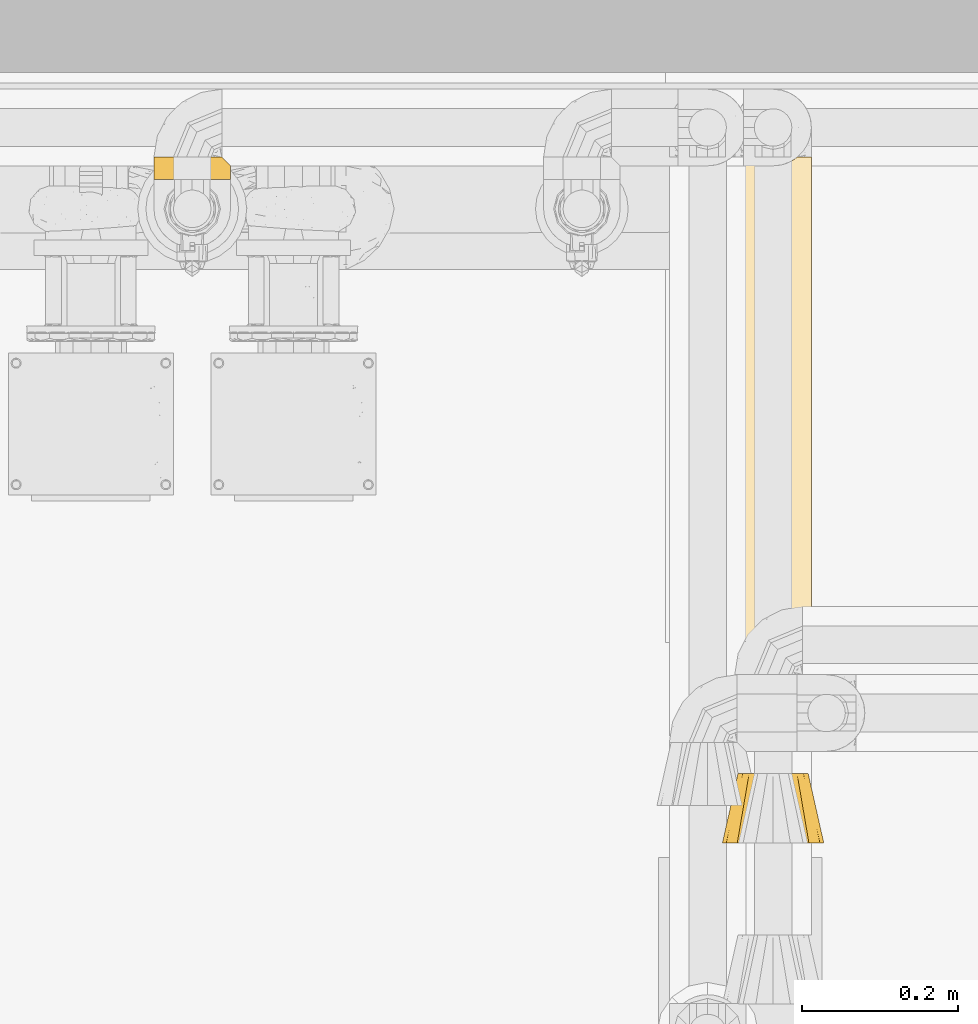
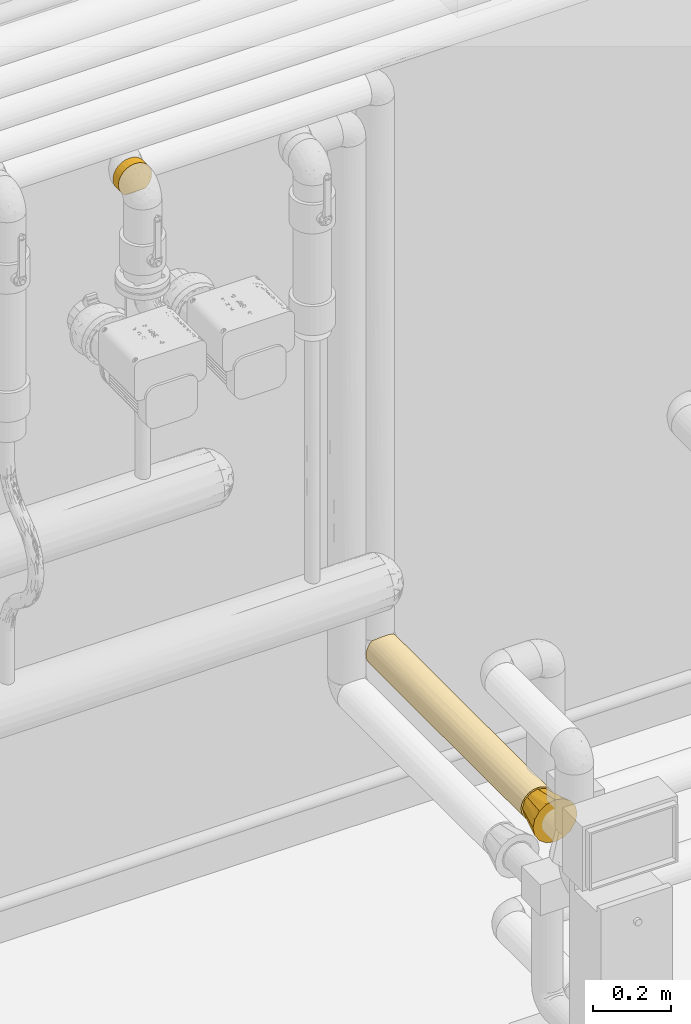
# One storey, part 25 of 94: 3 coverings.
"""IFC2X3 building model written with IfcOpenShell, lengths in millimetres."""

from ifc_helpers import new_model, entity, si_unit, converted_unit, derived_unit, direction, frame, origin, place, context, subcontext, project, spatial, faceted_brep, material, element, save


model = new_model("IFC2X3")

# Units and contexts
model_context = context("Model", 3, precision=0.01, world=origin(), true_north=direction((6.123031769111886e-17, 1.0)))
body_context = subcontext(model_context, "Body", "Model", "MODEL_VIEW")
ifc_project = project(units=[si_unit("LENGTHUNIT", "METRE", prefix="MILLI"), si_unit("AREAUNIT", "SQUARE_METRE"), si_unit("VOLUMEUNIT", "CUBIC_METRE"), converted_unit("PLANEANGLEUNIT", "DEGREE", entity("IfcRatioMeasure", 0.017453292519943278), si_unit("PLANEANGLEUNIT", "RADIAN"), dimensions=[0, 0, 0, 0, 0, 0, 0]), si_unit("MASSUNIT", "GRAM", prefix="KILO"), derived_unit("MASSDENSITYUNIT", [(si_unit("MASSUNIT", "GRAM", prefix="KILO"), 1), (si_unit("LENGTHUNIT", "METRE"), -3)]), derived_unit("IONCONCENTRATIONUNIT", [(si_unit("MASSUNIT", "GRAM", prefix="KILO"), 1), (si_unit("LENGTHUNIT", "METRE"), -3)]), derived_unit("MOMENTOFINERTIAUNIT", [(si_unit("LENGTHUNIT", "METRE"), 4)]), si_unit("TIMEUNIT", "SECOND"), si_unit("FREQUENCYUNIT", "HERTZ"), si_unit("THERMODYNAMICTEMPERATUREUNIT", "DEGREE_CELSIUS"), derived_unit("THERMALTRANSMITTANCEUNIT", [(si_unit("MASSUNIT", "GRAM", prefix="KILO"), 1), (si_unit("THERMODYNAMICTEMPERATUREUNIT", "KELVIN"), -1), (si_unit("TIMEUNIT", "SECOND"), -3)]), derived_unit("THERMALCONDUCTANCEUNIT", [(si_unit("MASSUNIT", "GRAM", prefix="KILO"), 1), (si_unit("THERMODYNAMICTEMPERATUREUNIT", "KELVIN"), -1), (si_unit("TIMEUNIT", "SECOND"), -3), (si_unit("LENGTHUNIT", "METRE"), 1)]), derived_unit("VOLUMETRICFLOWRATEUNIT", [(si_unit("LENGTHUNIT", "METRE"), 3), (si_unit("TIMEUNIT", "SECOND"), -1)]), derived_unit("MASSFLOWRATEUNIT", [(si_unit("MASSUNIT", "GRAM", prefix="KILO"), 1), (si_unit("TIMEUNIT", "SECOND"), -1)]), derived_unit("ROTATIONALFREQUENCYUNIT", [(si_unit("TIMEUNIT", "SECOND"), -1)]), si_unit("ELECTRICCURRENTUNIT", "AMPERE"), si_unit("ELECTRICVOLTAGEUNIT", "VOLT"), si_unit("POWERUNIT", "WATT"), si_unit("FORCEUNIT", "NEWTON", prefix="KILO"), si_unit("ILLUMINANCEUNIT", "LUX"), si_unit("LUMINOUSFLUXUNIT", "LUMEN"), si_unit("LUMINOUSINTENSITYUNIT", "CANDELA"), derived_unit("USERDEFINED", [(si_unit("MASSUNIT", "GRAM", prefix="KILO"), -1), (si_unit("LENGTHUNIT", "METRE"), -2), (si_unit("TIMEUNIT", "SECOND"), 3), (si_unit("LUMINOUSFLUXUNIT", "LUMEN"), 1)]), derived_unit("USERDEFINED", [(si_unit("MASSUNIT", "GRAM", prefix="KILO"), 1), (si_unit("TIMEUNIT", "SECOND"), -3), (si_unit("LENGTHUNIT", "METRE"), 3), (si_unit("ELECTRICCURRENTUNIT", "AMPERE"), -2)]), derived_unit("SOUNDPOWERUNIT", [(si_unit("MASSUNIT", "GRAM", prefix="KILO"), 1), (si_unit("TIMEUNIT", "SECOND"), -3), (si_unit("LENGTHUNIT", "METRE"), 2)]), derived_unit("SOUNDPRESSUREUNIT", [(si_unit("MASSUNIT", "GRAM", prefix="KILO"), 1), (si_unit("LENGTHUNIT", "METRE"), -1), (si_unit("TIMEUNIT", "SECOND"), -2)]), derived_unit("LINEARVELOCITYUNIT", [(si_unit("LENGTHUNIT", "METRE"), 1), (si_unit("TIMEUNIT", "SECOND"), -1)]), si_unit("PRESSUREUNIT", "PASCAL"), derived_unit("USERDEFINED", [(si_unit("MASSUNIT", "GRAM", prefix="KILO"), 1), (si_unit("LENGTHUNIT", "METRE"), -2), (si_unit("TIMEUNIT", "SECOND"), -2)]), derived_unit("LINEARFORCEUNIT", [(si_unit("MASSUNIT", "GRAM", prefix="KILO"), 1), (si_unit("TIMEUNIT", "SECOND"), -2)]), derived_unit("PLANARFORCEUNIT", [(si_unit("MASSUNIT", "GRAM", prefix="KILO"), 1), (si_unit("LENGTHUNIT", "METRE"), -1), (si_unit("TIMEUNIT", "SECOND"), -2)]), derived_unit("SPECIFICHEATCAPACITYUNIT", [(si_unit("THERMODYNAMICTEMPERATUREUNIT", "KELVIN"), -1), (si_unit("LENGTHUNIT", "METRE"), 2), (si_unit("TIMEUNIT", "SECOND"), -2)]), derived_unit("HEATINGVALUEUNIT", [(si_unit("LENGTHUNIT", "METRE"), 2), (si_unit("TIMEUNIT", "SECOND"), -2)]), derived_unit("VAPORPERMEABILITYUNIT", [(si_unit("LENGTHUNIT", "METRE"), -1), (si_unit("TIMEUNIT", "SECOND"), 1)]), derived_unit("DYNAMICVISCOSITYUNIT", [(si_unit("MASSUNIT", "GRAM", prefix="KILO"), 1), (si_unit("TIMEUNIT", "SECOND"), -1), (si_unit("LENGTHUNIT", "METRE"), -1)]), derived_unit("THERMALEXPANSIONCOEFFICIENTUNIT", [(si_unit("THERMODYNAMICTEMPERATUREUNIT", "KELVIN"), -1)]), derived_unit("MODULUSOFELASTICITYUNIT", [(si_unit("MASSUNIT", "GRAM", prefix="KILO"), 1), (si_unit("LENGTHUNIT", "METRE"), -1), (si_unit("TIMEUNIT", "SECOND"), -2)]), derived_unit("ISOTHERMALMOISTURECAPACITYUNIT", [(si_unit("LENGTHUNIT", "METRE"), 3), (si_unit("MASSUNIT", "GRAM", prefix="KILO"), -1)]), derived_unit("MOISTUREDIFFUSIVITYUNIT", [(si_unit("TIMEUNIT", "SECOND"), -1), (si_unit("LENGTHUNIT", "METRE"), 2)])], contexts=[model_context])

# Site, building, storey
site_placement = place(None, origin())
site = spatial("IfcSite", under=ifc_project, at=site_placement, Name="Default", CompositionType="ELEMENT")
building_placement = place(site_placement, origin())
building = spatial("IfcBuilding", under=site, at=building_placement, CompositionType="ELEMENT")
storey_placement = place(building_placement, origin())
storey = spatial("IfcBuildingStorey", under=building, at=storey_placement, Name="Niveau 0", CompositionType="ELEMENT", Elevation=0.0)

# Coverings
ifc_material = material(Name="Isolation - Laine minérale")
covering_1_placement = place(storey_placement, frame((-7722.871137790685, 9958.875273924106, 2400.725272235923)))
element("IfcCovering", 1, at=covering_1_placement, inside=storey, material=ifc_material, Name="Isolation des canalisations:Laine minérale", ObjectType="Isolation des canalisations:Laine minérale", PredefinedType="INSULATION", context=body_context, shape_type="Brep", body=[
    faceted_brep([(2.7935963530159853, 1.595272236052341, -61.510046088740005), (6.323164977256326, 1.5952722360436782, -71.75405658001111), (12.01254465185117, 1.5952722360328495, -80.9755883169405), (19.584352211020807, 1.5952722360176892, -88.72527223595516), (81.86619226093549, 1.5952722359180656, -88.72527223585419), (89.4379998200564, 1.5952722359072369, -80.97558831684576), (95.1273794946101, 1.5952722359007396, -71.75405657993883), (98.65694811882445, 1.5952722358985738, -61.510046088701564), (99.85527223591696, 1.5952722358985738, -50.72527223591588), (98.18120808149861, 1.595272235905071, -38.00949255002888), (93.2731003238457, 1.5952722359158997, -26.16027223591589), (85.46542839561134, 1.5952722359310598, -15.985116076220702), (75.29027223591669, 1.5952722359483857, -8.177444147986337), (63.4410519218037, 1.5952722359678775, -3.2693363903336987), (50.72527223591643, 1.5952722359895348, -1.595272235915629), (38.00949255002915, 1.5952722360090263, -3.2693363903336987), (26.160272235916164, 1.5952722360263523, -8.177444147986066), (15.985116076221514, 1.5952722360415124, -15.98511607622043), (8.17744414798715, 1.595272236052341, -26.16027223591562), (3.26933639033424, 1.5952722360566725, -38.00949255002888), (1.5952722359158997, 1.5952722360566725, -50.72527223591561), (61.510046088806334, 29.97035065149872, -98.65694811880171), (50.7252722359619, 29.970350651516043, -99.85527223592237), (38.00949255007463, 29.9703506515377, -98.1812080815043), (26.160272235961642, 29.970350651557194, -93.27310032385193), (15.985116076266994, 29.97035065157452, -85.46542839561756), (8.17744414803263, 29.97035065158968, -75.29027223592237), (3.2693363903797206, 29.97035065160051, -63.44105192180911), (1.5952722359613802, 29.970350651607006, -50.72527223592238), (3.2693363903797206, 29.970350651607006, -38.00949255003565), (8.17744414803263, 29.970350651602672, -26.16027223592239), (15.985116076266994, 29.970350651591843, -15.985116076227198), (26.160272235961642, 29.970350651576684, -8.177444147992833), (38.00949255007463, 29.970350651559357, -3.2693363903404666), (50.7252722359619, 29.970350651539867, -1.595272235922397), (61.51004608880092, 29.97035065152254, -2.7935963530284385), (71.75405658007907, 29.970350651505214, -6.323164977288), (80.97558831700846, 29.97035065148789, -12.012544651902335), (88.72527223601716, 29.970350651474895, -19.584352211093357), (88.72527223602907, 29.970350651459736, -81.86619226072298), (80.97558831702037, 29.970350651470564, -89.43799981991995), (71.75405658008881, 29.970350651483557, -95.1273794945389), (34.19020495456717, 9.859172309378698, -96.98917230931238), (42.334459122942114, 12.003444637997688, -99.13344463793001), (50.72527223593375, 12.725272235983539, -99.85527223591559), (26.531823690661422, 6.355463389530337, -93.4854633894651), (59.11608534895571, 12.00344463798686, -99.13344463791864), (67.26033951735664, 9.859172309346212, -96.9891723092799), (74.91872078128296, 6.3554633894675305, -93.48546338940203), (93.4854633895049, 25.21015949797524, -74.91872078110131), (96.98917230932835, 21.70645057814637, -67.26033951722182), (99.13344463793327, 19.56217824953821, -59.116085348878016), (99.85527223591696, 18.840350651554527, -50.725272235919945), (99.13344463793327, 19.562178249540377, -42.33445912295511), (96.98917230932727, 21.706450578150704, -34.19020495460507), (93.48546338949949, 25.210159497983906, -26.531823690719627)], [[[0, 1, 2, 3, 4, 5, 6, 7, 8, 9, 10, 11, 12, 13, 14, 15, 16, 17, 18, 19, 20]], [[21, 22, 23, 24, 25, 26, 27, 28, 29, 30, 31, 32, 33, 34, 35, 36, 37, 38, 39, 40, 41]], [[0, 28, 27]], [[27, 26, 1]], [[25, 2, 26]], [[20, 28, 0]], [[1, 0, 27]], [[2, 1, 26]], [[25, 3, 2]], [[42, 24, 23]], [[23, 22, 43]], [[44, 43, 22]], [[3, 25, 45]], [[43, 42, 23]], [[45, 24, 42]], [[45, 25, 24]], [[46, 22, 21]], [[21, 41, 47]], [[40, 48, 41]], [[46, 44, 22]], [[48, 47, 41]], [[4, 48, 40]], [[46, 21, 47]], [[40, 39, 4]], [[39, 49, 5]], [[50, 51, 7]], [[49, 50, 6]], [[5, 49, 6]], [[51, 8, 7]], [[7, 6, 50]], [[8, 51, 52]], [[39, 5, 4]], [[53, 54, 9]], [[10, 55, 11]], [[54, 55, 10]], [[52, 53, 8]], [[8, 53, 9]], [[54, 10, 9]], [[55, 38, 11]], [[12, 37, 36]], [[36, 35, 13]], [[34, 14, 35]], [[11, 37, 12]], [[13, 12, 36]], [[14, 13, 35]], [[37, 11, 38]], [[14, 34, 33, 15]], [[15, 33, 32, 16]], [[16, 32, 31, 17]], [[18, 30, 29, 19]], [[19, 29, 28, 20]], [[17, 31, 30, 18]], [[45, 42, 43, 44, 46, 47, 48, 4, 3]], [[38, 55, 54, 53, 52, 51, 50, 49, 39]]]),
])
covering_2_placement = place(storey_placement, frame((-6977.465954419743, 9197.870419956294, 658.7252722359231)))
element("IfcCovering", 2, at=covering_2_placement, inside=storey, material=ifc_material, Name="Isolation des canalisations:Laine minérale", ObjectType="Isolation des canalisations:Laine minérale", PredefinedType="INSULATION", context=body_context, shape_type="Brep", body=[
    faceted_brep([(38.009492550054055, 0.0, -98.18120808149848), (50.72527223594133, 0.0, -99.85527223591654), (63.4410519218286, 0.0, -98.18120808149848), (75.2902722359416, 0.0, -93.27310032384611), (85.46542839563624, 0.0, -85.46542839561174), (93.27310032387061, 0.0, -75.29027223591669), (98.18120808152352, 0.0, -63.44105192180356), (99.85527223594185, 0.0, -50.7252722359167), (98.18120808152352, 0.0, -38.009492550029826), (93.27310032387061, 0.0, -26.160272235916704), (85.46542839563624, 0.0, -15.985116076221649), (75.2902722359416, 0.0, -8.17744414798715), (63.4410519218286, 0.0, -3.2693363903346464), (50.72527223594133, 0.0, -1.5952722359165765), (38.009492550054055, 0.0, -3.2693363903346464), (26.16027223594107, 0.0, -8.17744414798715), (15.98511607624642, 0.0, -15.985116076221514), (8.177444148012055, 0.0, -26.16027223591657), (3.2693363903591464, 0.0, -38.00949255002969), (1.5952722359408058, 0.0, -50.72527223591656), (3.2693363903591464, 0.0, -63.44105192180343), (8.177444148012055, 0.0, -75.29027223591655), (15.98511607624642, 0.0, -85.46542839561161), (26.16027223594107, 0.0, -93.27310032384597), (2.793596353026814, 790.9752046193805, -39.940498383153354), (6.3231649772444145, 790.9752046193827, -29.69648789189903), (12.012544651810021, 790.9752046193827, -20.474956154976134), (19.58435221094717, 790.9752046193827, -12.725272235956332), (81.86619226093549, 790.9752046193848, -12.725272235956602), (89.43799982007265, 790.9752046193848, -20.474956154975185), (95.12737949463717, 790.9752046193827, -29.696487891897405), (98.65694811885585, 790.9752046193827, -39.94049838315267), (99.85527223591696, 790.9752046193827, -50.72527223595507), (98.18120808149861, 790.9752046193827, -63.44105192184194), (93.2731003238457, 790.9752046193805, -75.29027223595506), (85.46542839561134, 790.9752046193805, -85.46542839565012), (75.29027223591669, 790.9752046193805, -93.27310032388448), (63.4410519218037, 790.9752046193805, -98.18120808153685), (50.72527223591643, 790.9752046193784, -99.85527223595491), (38.00949255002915, 790.9752046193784, -98.18120808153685), (26.160272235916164, 790.9752046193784, -93.27310032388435), (15.985116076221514, 790.9752046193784, -85.46542839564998), (8.17744414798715, 790.9752046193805, -75.29027223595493), (3.26933639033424, 790.9752046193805, -63.441051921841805), (1.5952722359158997, 790.9752046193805, -50.72527223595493), (11.74782270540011, 458.4418193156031, -80.63372134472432), (5.3350708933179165, 395.4876057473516, -69.52650948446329), (2.539291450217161, 503.3716841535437, -60.31005996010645), (31.924035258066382, 395.4876027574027, -96.11547369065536), (2.190312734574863, 231.92427835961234, -58.348565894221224), (1.5952722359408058, 301.4885503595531, -50.72527223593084), (1.5952722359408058, 395.48760230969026, -50.72527223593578), (20.816823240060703, 332.5333901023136, -89.70272185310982), (41.14048475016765, 287.6035248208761, -98.91125306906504), (43.10197886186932, 559.0509345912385, -99.26023178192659), (50.72527223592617, 489.4864095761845, -99.85527223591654), (50.72527223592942, 395.48722572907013, -99.85527223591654), (59.20144611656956, 291.8810498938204, -99.11857111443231), (69.52650927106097, 332.53338726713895, -96.11547366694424), (99.26023177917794, 559.0509344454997, -58.348565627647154), (96.11547367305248, 395.48760239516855, -69.5265092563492), (80.63372124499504, 395.4876022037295, -89.7027218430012), (89.70272184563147, 332.5333869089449, -80.63372124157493), (98.91125306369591, 287.60352477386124, -60.31005974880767), (99.85527223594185, 395.4876023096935, -50.72527223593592), (99.85527223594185, 301.48704346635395, -50.725272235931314), (98.09661356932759, 398.3338223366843, -37.697881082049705), (78.70752236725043, 395.10029632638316, -10.342719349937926), (88.139232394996, 247.53906417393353, -18.882651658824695), (86.31236140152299, 508.7508756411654, -16.853219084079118), (92.5376879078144, 410.3772948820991, -24.928396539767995), (74.91872078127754, 786.2150134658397, -7.965081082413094), (63.67246131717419, 399.09403933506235, -3.331947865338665), (67.26033951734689, 782.7113045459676, -4.461372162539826), (59.11608534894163, 780.5670322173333, -2.317099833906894), (50.72527223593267, 290.3585501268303, -1.5952722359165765), (50.72527223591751, 779.8452046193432, -1.5952722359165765), (22.74302209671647, 395.10029628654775, -10.342719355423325), (37.77808315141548, 399.0940393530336, -3.331947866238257), (26.531823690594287, 786.2150134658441, -7.965081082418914), (15.017262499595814, 308.6782721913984, -16.98071799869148), (42.334459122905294, 780.5670322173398, -2.3170998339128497), (34.19020495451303, 782.711304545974, -4.461372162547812), (3.3539309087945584, 398.3338224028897, -37.6978810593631), (8.91285655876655, 410.3772948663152, -24.92839654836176)], [[[0, 1, 2, 3, 4, 5, 6, 7, 8, 9, 10, 11, 12, 13, 14, 15, 16, 17, 18, 19, 20, 21, 22, 23]], [[24, 25, 26, 27, 28, 29, 30, 31, 32, 33, 34, 35, 36, 37, 38, 39, 40, 41, 42, 43, 44]], [[42, 41, 45]], [[20, 46, 21]], [[43, 42, 46]], [[47, 43, 46]], [[23, 48, 0]], [[49, 19, 50, 51]], [[21, 45, 22]], [[43, 47, 44]], [[46, 45, 21]], [[41, 40, 52]], [[45, 46, 42]], [[53, 1, 0]], [[48, 40, 39]], [[44, 47, 51]], [[49, 46, 20]], [[54, 38, 55, 56]], [[52, 48, 23]], [[52, 40, 48]], [[22, 45, 52]], [[22, 52, 23]], [[48, 53, 0]], [[56, 53, 54]], [[52, 45, 41]], [[46, 49, 47]], [[19, 49, 20]], [[51, 47, 49]], [[54, 48, 39]], [[1, 53, 56]], [[48, 54, 53]], [[38, 54, 39]], [[57, 37, 58]], [[59, 60, 33]], [[37, 57, 55]], [[58, 61, 3]], [[61, 58, 36]], [[37, 55, 38]], [[35, 61, 36]], [[57, 1, 56, 55]], [[61, 4, 3]], [[3, 2, 58]], [[34, 60, 62]], [[63, 64, 65, 7]], [[60, 34, 33]], [[60, 5, 62]], [[35, 62, 61]], [[59, 32, 64]], [[4, 61, 62]], [[34, 62, 35]], [[57, 58, 2]], [[5, 4, 62]], [[60, 63, 6]], [[5, 60, 6]], [[36, 58, 37]], [[64, 63, 59]], [[1, 57, 2]], [[63, 7, 6]], [[60, 59, 63]], [[32, 59, 33]], [[66, 65, 64, 32]], [[66, 8, 65]], [[67, 68, 69]], [[9, 68, 10]], [[70, 30, 29]], [[71, 72, 67]], [[66, 32, 31]], [[66, 9, 8]], [[70, 29, 69]], [[9, 70, 68]], [[7, 65, 8]], [[67, 69, 28]], [[72, 71, 73]], [[68, 70, 69]], [[72, 74, 75]], [[11, 10, 67]], [[74, 76, 75]], [[30, 70, 66]], [[74, 72, 73]], [[72, 11, 67]], [[9, 66, 70]], [[75, 13, 12]], [[12, 72, 75]], [[30, 66, 31]], [[28, 69, 29]], [[71, 67, 28]], [[68, 67, 10]], [[72, 12, 11]], [[77, 15, 78]], [[16, 15, 77]], [[27, 77, 79]], [[75, 78, 14]], [[80, 27, 26]], [[77, 78, 79]], [[81, 82, 78]], [[83, 44, 51, 50]], [[81, 75, 76]], [[50, 18, 83]], [[13, 75, 14]], [[78, 15, 14]], [[84, 26, 25]], [[83, 24, 44]], [[80, 77, 27]], [[17, 80, 84]], [[50, 19, 18]], [[81, 78, 75]], [[80, 16, 77]], [[17, 83, 18]], [[25, 24, 83]], [[17, 84, 83]], [[78, 82, 79]], [[25, 83, 84]], [[26, 84, 80]], [[80, 17, 16]], [[79, 82, 81, 76, 74, 73, 71, 28, 27]]]),
])
covering_3_placement = place(storey_placement, frame((-6993.335954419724, 9108.870419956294, 541.4047277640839)))
element("IfcCovering", 3, at=covering_3_placement, inside=storey, material=ifc_material, Name="Isolation des canalisations:Laine minérale", ObjectType="Isolation des canalisations:Laine minérale", PredefinedType="INSULATION", context=body_context, shape_type="Brep", body=[
    faceted_brep([(44.0952722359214, 89.0, 105.56641540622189), (55.34527223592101, 89.0, 108.58084382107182), (66.5952722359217, 89.0, 111.5952722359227), (77.84527223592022, 89.0, 108.58084382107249), (89.095272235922, 89.0, 105.56641540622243), (97.33084382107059, 89.0, 97.33084382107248), (105.56641540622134, 89.0, 89.0952722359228), (108.58084382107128, 89.0, 77.84527223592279), (111.59527223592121, 89.0, 66.59527223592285), (108.58084382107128, 89.0, 55.34527223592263), (105.56641540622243, 89.0, 44.095272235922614), (97.33084382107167, 89.0, 35.85970065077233), (89.095272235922, 89.0, 27.624129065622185), (77.8452722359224, 89.0, 24.609700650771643), (66.5952722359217, 89.0, 21.595272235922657), (55.34527223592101, 89.0, 24.609700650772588), (44.0952722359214, 89.0, 27.624129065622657), (35.85970065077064, 89.0, 35.85970065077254), (27.624129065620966, 89.0, 44.09527223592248), (24.609700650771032, 89.0, 55.345272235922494), (21.59527223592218, 89.0, 66.59527223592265), (24.609700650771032, 89.0, 77.84527223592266), (27.62412906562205, 89.0, 89.09527223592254), (35.85970065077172, 89.0, 97.33084382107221), (6.543102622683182, 0.0, 91.4696953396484), (4.069187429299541, 0.0, 79.03248378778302), (1.5952722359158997, 0.0, 66.5952722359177), (4.069187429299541, 0.0, 54.158060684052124), (6.543102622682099, 0.0, 41.72084913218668), (13.588217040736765, 0.0, 31.177090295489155), (20.633331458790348, 0.0, 20.63333145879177), (31.1770902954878, 0.0, 13.588217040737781), (41.72084913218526, 0.0, 6.543102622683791), (54.15806068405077, 0.0, 4.069187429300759), (66.59527223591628, 0.0, 1.5952722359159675), (79.03248378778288, 0.0, 4.069187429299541), (91.4696953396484, 0.0, 6.543102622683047), (102.01345417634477, 0.0, 13.58821704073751), (112.5572130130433, 0.0, 20.633331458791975), (119.60232743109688, 0.0, 31.177090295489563), (126.64744184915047, 0.0, 41.72084913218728), (129.12135704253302, 0.0, 54.158060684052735), (131.59527223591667, 0.0, 66.59527223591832), (129.12135704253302, 0.0, 79.03248378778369), (126.64744184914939, 0.0, 91.46969533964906), (119.60232743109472, 0.0, 102.01345417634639), (112.55721301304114, 0.0, 112.55721301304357), (102.01345417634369, 0.0, 119.60232743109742), (91.46969533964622, 0.0, 126.64744184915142), (79.03248378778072, 0.0, 129.12135704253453), (66.59527223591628, 0.0, 131.59527223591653), (54.15806068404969, 0.0, 129.12135704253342), (41.72084913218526, 0.0, 126.64744184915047), (31.1770902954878, 0.0, 119.60232743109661), (20.633331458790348, 0.0, 112.5572130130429), (13.588217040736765, 0.0, 102.01345417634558)], [[[0, 1, 2, 3, 4, 5, 6, 7, 8, 9, 10, 11, 12, 13, 14, 15, 16, 17, 18, 19, 20, 21, 22, 23]], [[24, 25, 26, 27, 28, 29, 30, 31, 32, 33, 34, 35, 36, 37, 38, 39, 40, 41, 42, 43, 44, 45, 46, 47, 48, 49, 50, 51, 52, 53, 54, 55]], [[35, 34, 14]], [[10, 40, 39]], [[37, 36, 12]], [[37, 12, 11]], [[10, 39, 11]], [[37, 11, 38]], [[41, 40, 9]], [[14, 13, 35]], [[39, 38, 11]], [[8, 41, 9]], [[13, 12, 36]], [[41, 8, 42]], [[40, 10, 9]], [[13, 36, 35]], [[27, 26, 20]], [[16, 32, 31]], [[29, 28, 18]], [[29, 18, 17]], [[16, 31, 17]], [[29, 17, 30]], [[33, 32, 15]], [[20, 19, 27]], [[31, 30, 17]], [[14, 33, 15]], [[19, 18, 28]], [[33, 14, 34]], [[32, 16, 15]], [[19, 28, 27]], [[51, 50, 2]], [[22, 24, 55]], [[53, 52, 0]], [[53, 0, 23]], [[22, 55, 23]], [[53, 23, 54]], [[25, 24, 21]], [[2, 1, 51]], [[55, 54, 23]], [[20, 25, 21]], [[1, 0, 52]], [[25, 20, 26]], [[24, 22, 21]], [[1, 52, 51]], [[43, 42, 8]], [[4, 48, 47]], [[45, 44, 6]], [[45, 6, 5]], [[4, 47, 5]], [[45, 5, 46]], [[49, 48, 3]], [[8, 7, 43]], [[47, 46, 5]], [[2, 49, 3]], [[7, 6, 44]], [[49, 2, 50]], [[48, 4, 3]], [[7, 44, 43]]]),
])

save(model, "model.ifc")
